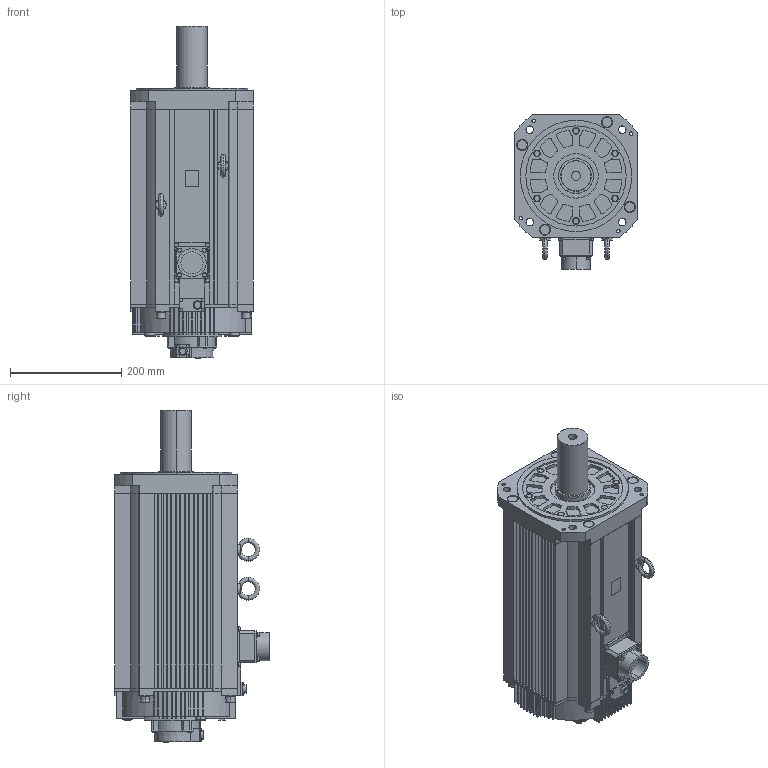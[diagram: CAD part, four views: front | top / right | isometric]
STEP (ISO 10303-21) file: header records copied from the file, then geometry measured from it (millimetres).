
FILE_DESCRIPTION (( 'STEP AP214' ), '1' );
FILE_NAME ('sgmxg_1eaua8ca2.STEP', '2022-06-30T07:08:18', ( '' ), ( '' ), 'SwSTEP 2.0', 'SolidWorks 2016', '' );
FILE_SCHEMA (( 'AUTOMOTIVE_DESIGN' ));
Length unit declared in the file: millimetre
Products named in the file (1): sgmxg_1eaua8ca2
Bounding box: 220 x 277.06 x 596.2 mm (x, y, z)
Volume: 17877813 mm3; surface area: 786582.6 mm2
Topology: 1 solids, 1 shells, 1289 faces, 3563 edges, 2362 vertices
Faces by surface type: plane 873, cylinder 397, cone 11, torus 8
Entity records: 42645 total; most frequent: CARTESIAN_POINT 7409, ORIENTED_EDGE 7126, DIRECTION 7086, EDGE_CURVE 3563, LINE 2592, VECTOR 2592, VERTEX_POINT 2362, AXIS2_PLACEMENT_3D 2247
